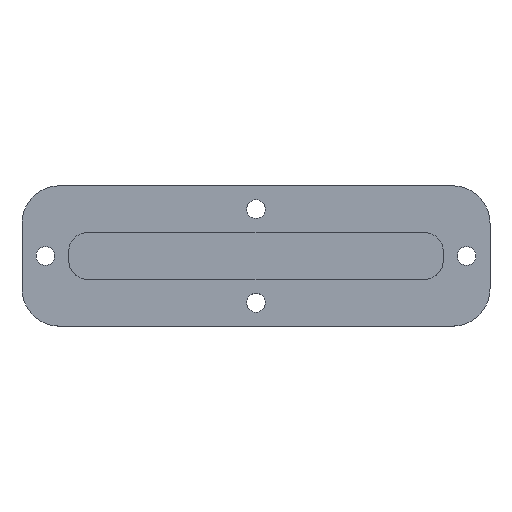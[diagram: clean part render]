
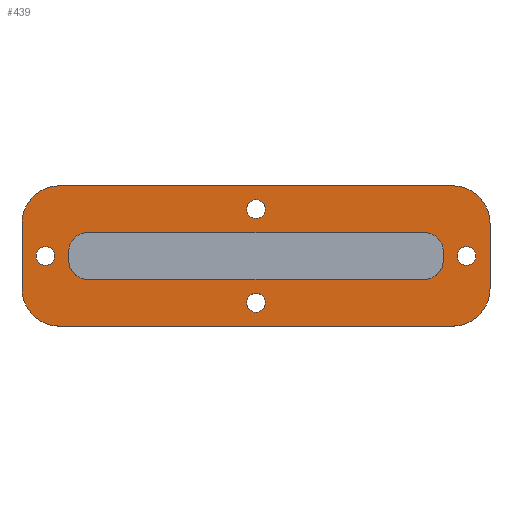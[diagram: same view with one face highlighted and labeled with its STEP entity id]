
A CAD part, top view. The second image highlights one B-rep face of the part: STEP entity #439.
In plain terms, the highlighted planar face has unit normal (0, 0, 1).
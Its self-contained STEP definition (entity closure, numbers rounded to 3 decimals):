
#15=FACE_BOUND('',#80,.T.);
#16=FACE_BOUND('',#81,.T.);
#17=FACE_BOUND('',#82,.T.);
#18=FACE_BOUND('',#83,.T.);
#19=FACE_BOUND('',#84,.T.);
#33=PLANE('',#506);
#56=FACE_OUTER_BOUND('',#79,.T.);
#79=EDGE_LOOP('',(#374,#375,#376,#377,#378,#379,#380,#381));
#80=EDGE_LOOP('',(#382));
#81=EDGE_LOOP('',(#383));
#82=EDGE_LOOP('',(#384));
#83=EDGE_LOOP('',(#385));
#84=EDGE_LOOP('',(#386,#387,#388,#389,#390,#391,#392,#393));
#94=LINE('',#668,#130);
#99=LINE('',#682,#135);
#104=LINE('',#700,#140);
#108=LINE('',#711,#144);
#112=LINE('',#721,#148);
#116=LINE('',#733,#152);
#120=LINE('',#745,#156);
#124=LINE('',#757,#160);
#130=VECTOR('',#540,10.);
#135=VECTOR('',#553,10.);
#140=VECTOR('',#572,10.);
#144=VECTOR('',#584,10.);
#148=VECTOR('',#592,10.);
#152=VECTOR('',#604,10.);
#156=VECTOR('',#616,10.);
#160=VECTOR('',#628,10.);
#162=CIRCLE('',#462,1.);
#164=CIRCLE('',#465,1.);
#166=CIRCLE('',#468,1.);
#168=CIRCLE('',#471,1.);
#170=CIRCLE('',#475,2.);
#172=CIRCLE('',#479,2.);
#174=CIRCLE('',#482,2.);
#176=CIRCLE('',#486,2.);
#179=CIRCLE('',#493,4.);
#181=CIRCLE('',#497,4.);
#183=CIRCLE('',#501,4.);
#185=CIRCLE('',#505,4.);
#186=VERTEX_POINT('',#642);
#188=VERTEX_POINT('',#648);
#190=VERTEX_POINT('',#654);
#192=VERTEX_POINT('',#660);
#194=VERTEX_POINT('',#666);
#195=VERTEX_POINT('',#667);
#198=VERTEX_POINT('',#675);
#200=VERTEX_POINT('',#681);
#202=VERTEX_POINT('',#687);
#204=VERTEX_POINT('',#693);
#206=VERTEX_POINT('',#699);
#208=VERTEX_POINT('',#705);
#212=VERTEX_POINT('',#718);
#213=VERTEX_POINT('',#720);
#215=VERTEX_POINT('',#726);
#217=VERTEX_POINT('',#732);
#219=VERTEX_POINT('',#738);
#221=VERTEX_POINT('',#744);
#223=VERTEX_POINT('',#750);
#225=VERTEX_POINT('',#756);
#226=EDGE_CURVE('',#186,#186,#162,.T.);
#229=EDGE_CURVE('',#188,#188,#164,.T.);
#232=EDGE_CURVE('',#190,#190,#166,.T.);
#235=EDGE_CURVE('',#192,#192,#168,.T.);
#238=EDGE_CURVE('',#194,#195,#94,.T.);
#242=EDGE_CURVE('',#198,#194,#170,.T.);
#245=EDGE_CURVE('',#200,#198,#99,.T.);
#248=EDGE_CURVE('',#202,#200,#172,.T.);
#251=EDGE_CURVE('',#195,#204,#174,.T.);
#254=EDGE_CURVE('',#204,#206,#104,.T.);
#257=EDGE_CURVE('',#206,#208,#176,.T.);
#260=EDGE_CURVE('',#208,#202,#108,.T.);
#264=EDGE_CURVE('',#213,#212,#112,.T.);
#267=EDGE_CURVE('',#215,#213,#179,.T.);
#270=EDGE_CURVE('',#217,#215,#116,.T.);
#273=EDGE_CURVE('',#219,#217,#181,.T.);
#276=EDGE_CURVE('',#221,#219,#120,.T.);
#279=EDGE_CURVE('',#223,#221,#183,.T.);
#282=EDGE_CURVE('',#225,#223,#124,.T.);
#285=EDGE_CURVE('',#212,#225,#185,.T.);
#374=ORIENTED_EDGE('',*,*,#285,.T.);
#375=ORIENTED_EDGE('',*,*,#282,.T.);
#376=ORIENTED_EDGE('',*,*,#279,.T.);
#377=ORIENTED_EDGE('',*,*,#276,.T.);
#378=ORIENTED_EDGE('',*,*,#273,.T.);
#379=ORIENTED_EDGE('',*,*,#270,.T.);
#380=ORIENTED_EDGE('',*,*,#267,.T.);
#381=ORIENTED_EDGE('',*,*,#264,.T.);
#382=ORIENTED_EDGE('',*,*,#226,.T.);
#383=ORIENTED_EDGE('',*,*,#229,.T.);
#384=ORIENTED_EDGE('',*,*,#232,.T.);
#385=ORIENTED_EDGE('',*,*,#235,.T.);
#386=ORIENTED_EDGE('',*,*,#242,.T.);
#387=ORIENTED_EDGE('',*,*,#238,.T.);
#388=ORIENTED_EDGE('',*,*,#251,.T.);
#389=ORIENTED_EDGE('',*,*,#254,.T.);
#390=ORIENTED_EDGE('',*,*,#257,.T.);
#391=ORIENTED_EDGE('',*,*,#260,.T.);
#392=ORIENTED_EDGE('',*,*,#248,.T.);
#393=ORIENTED_EDGE('',*,*,#245,.T.);
#439=ADVANCED_FACE('',(#56,#15,#16,#17,#18,#19),#33,.T.);
#462=AXIS2_PLACEMENT_3D('',#643,#512,#513);
#465=AXIS2_PLACEMENT_3D('',#649,#519,#520);
#468=AXIS2_PLACEMENT_3D('',#655,#526,#527);
#471=AXIS2_PLACEMENT_3D('',#661,#533,#534);
#475=AXIS2_PLACEMENT_3D('',#676,#546,#547);
#479=AXIS2_PLACEMENT_3D('',#688,#558,#559);
#482=AXIS2_PLACEMENT_3D('',#694,#565,#566);
#486=AXIS2_PLACEMENT_3D('',#706,#577,#578);
#493=AXIS2_PLACEMENT_3D('',#727,#598,#599);
#497=AXIS2_PLACEMENT_3D('',#739,#610,#611);
#501=AXIS2_PLACEMENT_3D('',#751,#622,#623);
#505=AXIS2_PLACEMENT_3D('',#761,#634,#635);
#506=AXIS2_PLACEMENT_3D('',#762,#636,#637);
#512=DIRECTION('center_axis',(0.,0.,-1.));
#513=DIRECTION('ref_axis',(1.,0.,0.));
#519=DIRECTION('center_axis',(0.,0.,-1.));
#520=DIRECTION('ref_axis',(-1.,0.,0.));
#526=DIRECTION('center_axis',(0.,0.,-1.));
#527=DIRECTION('ref_axis',(1.,0.,0.));
#533=DIRECTION('center_axis',(0.,0.,-1.));
#534=DIRECTION('ref_axis',(1.,0.,0.));
#540=DIRECTION('',(0.,1.,0.));
#546=DIRECTION('center_axis',(0.,0.,-1.));
#547=DIRECTION('ref_axis',(1.,0.,0.));
#553=DIRECTION('',(-1.,0.,0.));
#558=DIRECTION('center_axis',(0.,0.,-1.));
#559=DIRECTION('ref_axis',(0.,1.,0.));
#565=DIRECTION('center_axis',(0.,0.,-1.));
#566=DIRECTION('ref_axis',(0.,-1.,0.));
#572=DIRECTION('',(1.,0.,0.));
#577=DIRECTION('center_axis',(0.,0.,-1.));
#578=DIRECTION('ref_axis',(-1.,0.,0.));
#584=DIRECTION('',(0.,-1.,0.));
#592=DIRECTION('',(1.,0.,0.));
#598=DIRECTION('center_axis',(0.,0.,1.));
#599=DIRECTION('ref_axis',(-1.,0.,0.));
#604=DIRECTION('',(0.,-1.,0.));
#610=DIRECTION('center_axis',(0.,0.,1.));
#611=DIRECTION('ref_axis',(0.,1.,0.));
#616=DIRECTION('',(-1.,0.,0.));
#622=DIRECTION('center_axis',(0.,0.,1.));
#623=DIRECTION('ref_axis',(1.,0.,0.));
#628=DIRECTION('',(0.,1.,0.));
#634=DIRECTION('center_axis',(0.,0.,1.));
#635=DIRECTION('ref_axis',(0.,-1.,0.));
#636=DIRECTION('center_axis',(0.,0.,1.));
#637=DIRECTION('ref_axis',(1.,0.,0.));
#642=CARTESIAN_POINT('',(-1.,-5.,2.));
#643=CARTESIAN_POINT('Origin',(0.,-5.,2.));
#648=CARTESIAN_POINT('',(23.5,0.,2.));
#649=CARTESIAN_POINT('Origin',(22.5,0.,2.));
#654=CARTESIAN_POINT('',(-23.5,0.,2.));
#655=CARTESIAN_POINT('Origin',(-22.5,0.,2.));
#660=CARTESIAN_POINT('',(-1.,5.,2.));
#661=CARTESIAN_POINT('Origin',(0.,5.,2.));
#666=CARTESIAN_POINT('',(-20.,-0.5,2.));
#667=CARTESIAN_POINT('',(-20.,0.5,2.));
#668=CARTESIAN_POINT('',(-20.,-0.5,2.));
#675=CARTESIAN_POINT('',(-18.,-2.5,2.));
#676=CARTESIAN_POINT('Origin',(-18.,-0.5,2.));
#681=CARTESIAN_POINT('',(18.,-2.5,2.));
#682=CARTESIAN_POINT('',(18.,-2.5,2.));
#687=CARTESIAN_POINT('',(20.,-0.5,2.));
#688=CARTESIAN_POINT('Origin',(18.,-0.5,2.));
#693=CARTESIAN_POINT('',(-18.,2.5,2.));
#694=CARTESIAN_POINT('Origin',(-18.,0.5,2.));
#699=CARTESIAN_POINT('',(18.,2.5,2.));
#700=CARTESIAN_POINT('',(-18.,2.5,2.));
#705=CARTESIAN_POINT('',(20.,0.5,2.));
#706=CARTESIAN_POINT('Origin',(18.,0.5,2.));
#711=CARTESIAN_POINT('',(20.,0.5,2.));
#718=CARTESIAN_POINT('',(21.,-7.5,2.));
#720=CARTESIAN_POINT('',(-21.,-7.5,2.));
#721=CARTESIAN_POINT('',(-21.,-7.5,2.));
#726=CARTESIAN_POINT('',(-25.,-3.5,2.));
#727=CARTESIAN_POINT('Origin',(-21.,-3.5,2.));
#732=CARTESIAN_POINT('',(-25.,3.5,2.));
#733=CARTESIAN_POINT('',(-25.,3.5,2.));
#738=CARTESIAN_POINT('',(-21.,7.5,2.));
#739=CARTESIAN_POINT('Origin',(-21.,3.5,2.));
#744=CARTESIAN_POINT('',(21.,7.5,2.));
#745=CARTESIAN_POINT('',(21.,7.5,2.));
#750=CARTESIAN_POINT('',(25.,3.5,2.));
#751=CARTESIAN_POINT('Origin',(21.,3.5,2.));
#756=CARTESIAN_POINT('',(25.,-3.5,2.));
#757=CARTESIAN_POINT('',(25.,-3.5,2.));
#761=CARTESIAN_POINT('Origin',(21.,-3.5,2.));
#762=CARTESIAN_POINT('Origin',(0.,0.,2.));
